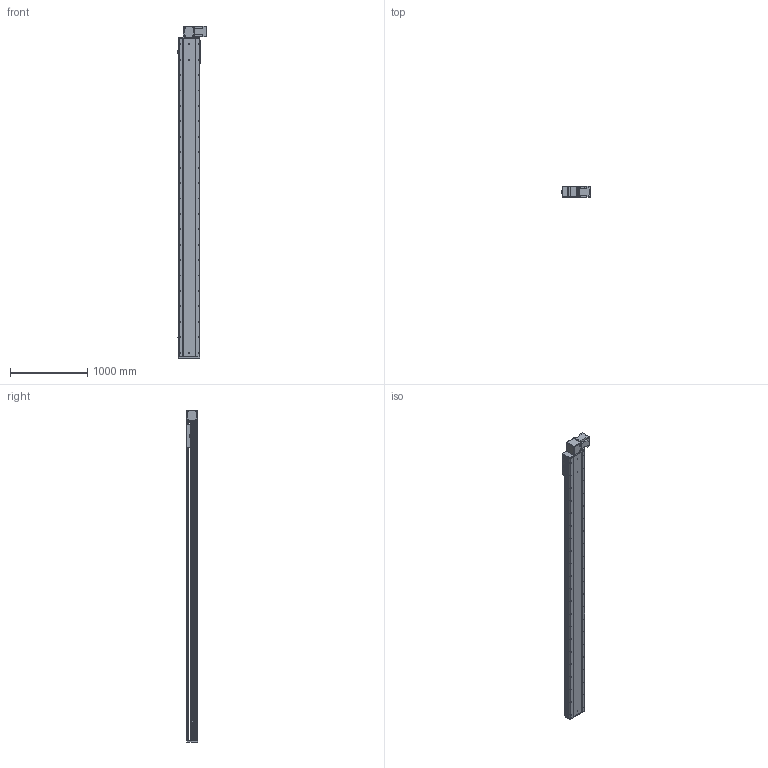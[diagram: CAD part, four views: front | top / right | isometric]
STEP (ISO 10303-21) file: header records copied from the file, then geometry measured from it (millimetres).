
FILE_DESCRIPTION (( 'STEP AP214' ), '1' );
FILE_NAME ('RTB28S-XX-3700-BL-M100-XX-C4.STEP', '2025-12-22T02:40:47', ( '' ), ( '' ), 'SwSTEP 2.0', 'SolidWorks 2018', '' );
FILE_SCHEMA (( 'AUTOMOTIVE_DESIGN' ));
Length unit declared in the file: millimetre
Products named in the file (4): RTB28S-XX-3700-BL-M100-XX-C4; RTB28S-GY-011^RTB28S-XX-XX-BL-M100-XX-C4; RTB28S-GY-008^RTB28S-XX-XX-BL-M100-XX-C4; RTB28S-GY-004^RTB28S-XX-XX-BL-M100-XX-C4
Assembly tree (3 placements, depth 2):
  RTB28S-XX-3700-BL-M100-XX-C4
    RTB28S-GY-011^RTB28S-XX-XX-BL-M100-XX-C4
    RTB28S-GY-004^RTB28S-XX-XX-BL-M100-XX-C4
    RTB28S-GY-008^RTB28S-XX-XX-BL-M100-XX-C4
Bounding box: 380.7 x 145 x 4307 mm (x, y, z)
Volume: 72140191.6 mm3; surface area: 6696965.9 mm2
Topology: 3 solids, 4 shells, 918 faces, 2478 edges, 1588 vertices
Faces by surface type: cylinder 463, plane 371, cone 80, torus 4
Entity records: 35831 total; most frequent: CARTESIAN_POINT 6952, DIRECTION 5280, ORIENTED_EDGE 4892, EDGE_CURVE 2446, AXIS2_PLACEMENT_3D 1960, VERTEX_POINT 1588, VECTOR 1360, LINE 1360
